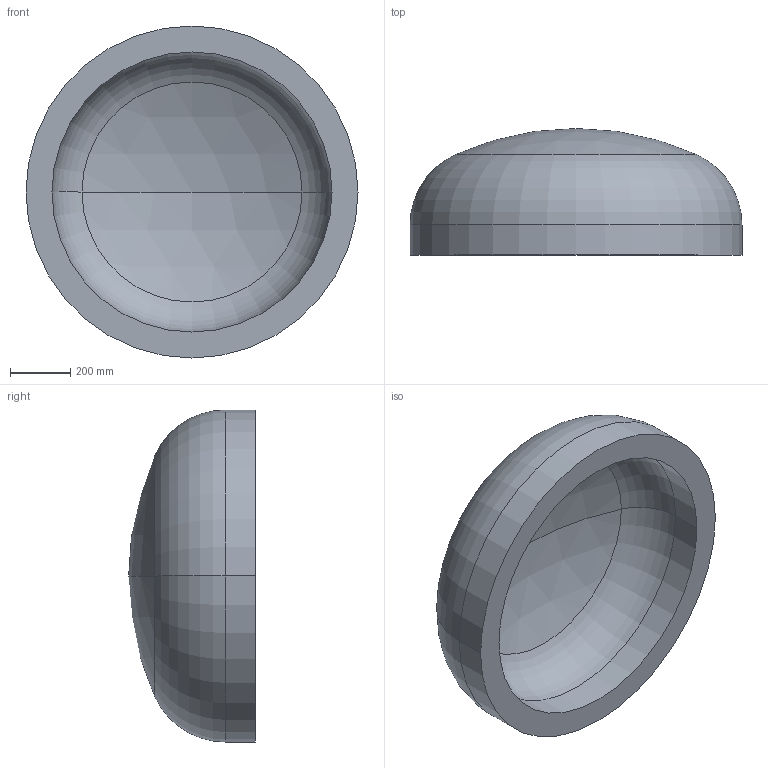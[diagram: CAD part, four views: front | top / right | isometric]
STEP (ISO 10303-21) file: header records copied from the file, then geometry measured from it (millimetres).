
FILE_DESCRIPTION (( 'STEP AP203' ), '1' );
FILE_NAME ('DIN 28013 Korbbogenform_-_Boden DIN 28013 - 1100 x 100 - I - s=86.step', '2016-07-01T09:14:14', ( '' ), ( '' ), 'SwSTEP 2.0', 'SolidWorks 2013', '' );
FILE_SCHEMA (( 'CONFIG_CONTROL_DESIGN' ));
Length unit declared in the file: millimetre
Products named in the file (1): DIN 28013 Korbbogenform_-_Boden DIN 28013 - 1100 x 100 - I - s=86
Bounding box: 1100 x 419.73 x 1100 mm (x, y, z)
Volume: 130070830.8 mm3; surface area: 3314352.1 mm2
Topology: 1 solids, 1 shells, 13 faces, 24 edges, 14 vertices
Faces by surface type: torus 4, cylinder 4, sphere 4, plane 1
Entity records: 407 total; most frequent: DIRECTION 72, CARTESIAN_POINT 52, ORIENTED_EDGE 48, AXIS2_PLACEMENT_3D 34, EDGE_CURVE 24, CIRCLE 20, VERTEX_POINT 14, EDGE_LOOP 14
